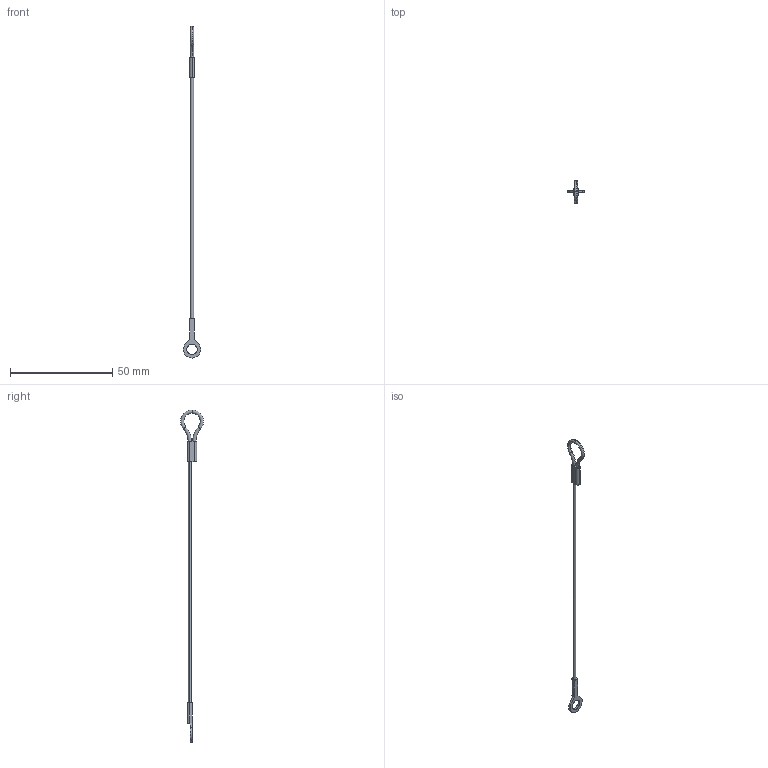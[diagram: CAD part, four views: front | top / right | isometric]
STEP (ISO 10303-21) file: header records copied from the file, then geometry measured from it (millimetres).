
FILE_DESCRIPTION (( 'STEP AP203' ), '1' );
FILE_NAME ('Default.step', '2026-03-23T16:39:50', ( '' ), ( '' ), 'SwSTEP 2.0', 'SolidWorks 2019', '' );
FILE_SCHEMA (( 'CONFIG_CONTROL_DESIGN' ));
Length unit declared in the file: millimetre
Products named in the file (1): Default
Bounding box: 8.36 x 11.16 x 162.19 mm (x, y, z)
Volume: 495.4 mm3; surface area: 1113.3 mm2
Topology: 1 solids, 1 shells, 30 faces, 70 edges, 44 vertices
Faces by surface type: plane 12, cylinder 10, torus 8
Entity records: 953 total; most frequent: DIRECTION 170, CARTESIAN_POINT 145, ORIENTED_EDGE 140, EDGE_CURVE 70, AXIS2_PLACEMENT_3D 69, VERTEX_POINT 44, CIRCLE 38, EDGE_LOOP 36
